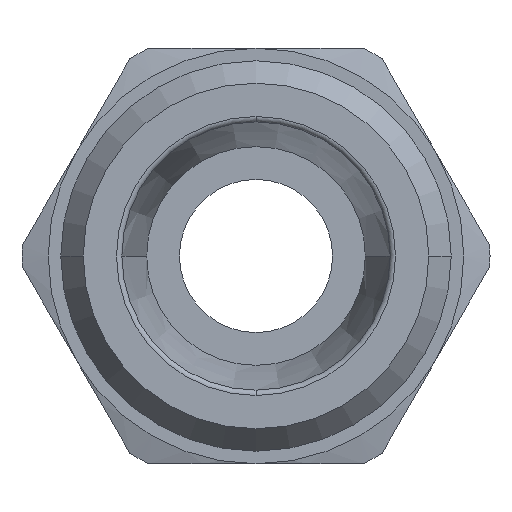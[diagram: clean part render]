
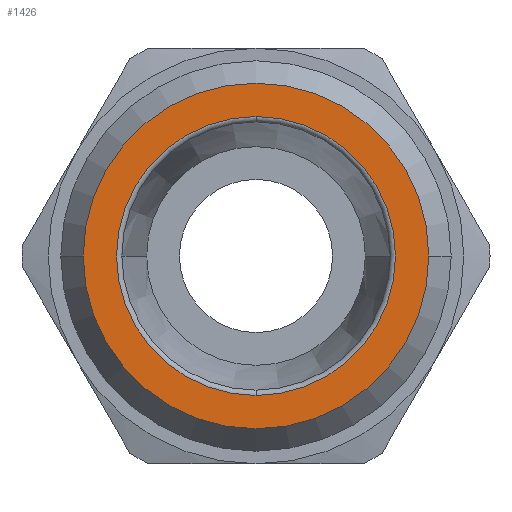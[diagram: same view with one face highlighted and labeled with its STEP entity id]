
A CAD part, left-side view. The second image highlights one B-rep face of the part: STEP entity #1426.
In plain terms, the highlighted planar face has unit normal (-1, 0, 0) as drawn and (0, 0, 1) by its records, which use the part's own axes.
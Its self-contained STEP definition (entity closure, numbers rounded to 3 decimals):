
#901=CARTESIAN_POINT('',(0.,-7.9,16.));
#902=VERTEX_POINT('',#901);
#909=CARTESIAN_POINT('',(0.,7.9,16.0));
#910=VERTEX_POINT('',#909);
#911=CARTESIAN_POINT('',(0.,0.,16.0));
#912=DIRECTION('',(0.0,0.0,-1.0));
#913=DIRECTION('',(0.0,-1.0,0.0));
#914=AXIS2_PLACEMENT_3D('',#911,#912,#913);
#915=CIRCLE('',#914,7.9);
#916=EDGE_CURVE('',#902,#910,#915,.T.);
#974=CARTESIAN_POINT('',(6.377,0.,16.0));
#975=VERTEX_POINT('',#974);
#993=CARTESIAN_POINT('',(-6.377,0.,16.0));
#994=VERTEX_POINT('',#993);
#1002=CARTESIAN_POINT('',(0.,-6.377,16.));
#1003=VERTEX_POINT('',#1002);
#1004=CARTESIAN_POINT('',(0.,0.,16.0));
#1005=DIRECTION('',(0.0,0.0,1.0));
#1006=DIRECTION('',(0.0,1.0,0.0));
#1007=AXIS2_PLACEMENT_3D('',#1004,#1005,#1006);
#1008=CIRCLE('',#1007,6.377);
#1009=EDGE_CURVE('',#994,#1003,#1008,.T.);
#1011=CARTESIAN_POINT('',(0.,0.,16.0));
#1012=DIRECTION('',(0.0,0.0,1.0));
#1013=DIRECTION('',(0.0,1.0,0.0));
#1014=AXIS2_PLACEMENT_3D('',#1011,#1012,#1013);
#1015=CIRCLE('',#1014,6.377);
#1016=EDGE_CURVE('',#1003,#975,#1015,.T.);
#1387=CARTESIAN_POINT('',(0.,0.,16.0));
#1388=DIRECTION('',(0.0,0.0,1.0));
#1389=DIRECTION('',(0.0,1.0,0.0));
#1390=AXIS2_PLACEMENT_3D('',#1387,#1388,#1389);
#1391=CIRCLE('',#1390,6.377);
#1392=EDGE_CURVE('',#975,#994,#1391,.T.);
#1406=CARTESIAN_POINT('',(0.,-7.038,16.));
#1407=DIRECTION('',(0.0,0.0,1.0));
#1408=DIRECTION('',(-1.0,0.0,0.0));
#1409=AXIS2_PLACEMENT_3D('',#1406,#1407,#1408);
#1410=PLANE('',#1409);
#1411=ORIENTED_EDGE('',*,*,#916,.F.);
#1412=CARTESIAN_POINT('',(0.,0.,16.0));
#1413=DIRECTION('',(0.0,0.0,-1.0));
#1414=DIRECTION('',(0.0,-1.0,0.0));
#1415=AXIS2_PLACEMENT_3D('',#1412,#1413,#1414);
#1416=CIRCLE('',#1415,7.9);
#1417=EDGE_CURVE('',#910,#902,#1416,.T.);
#1418=ORIENTED_EDGE('',*,*,#1417,.F.);
#1419=EDGE_LOOP('',(#1411,#1418));
#1420=FACE_OUTER_BOUND('',#1419,.T.);
#1421=ORIENTED_EDGE('',*,*,#1016,.F.);
#1422=ORIENTED_EDGE('',*,*,#1009,.F.);
#1423=ORIENTED_EDGE('',*,*,#1392,.F.);
#1424=EDGE_LOOP('',(#1421,#1422,#1423));
#1425=FACE_BOUND('',#1424,.T.);
#1426=ADVANCED_FACE('',(#1420,#1425),#1410,.T.);
